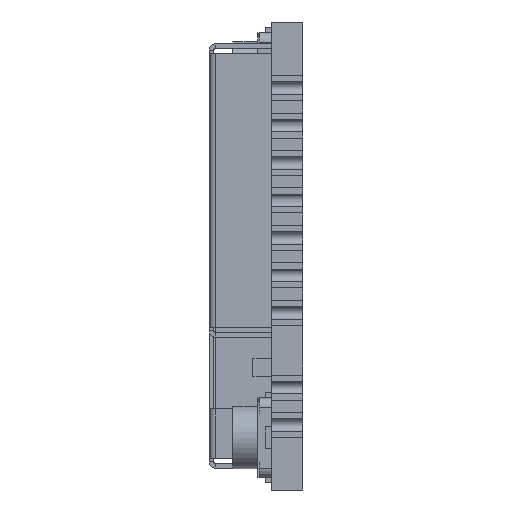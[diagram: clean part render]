
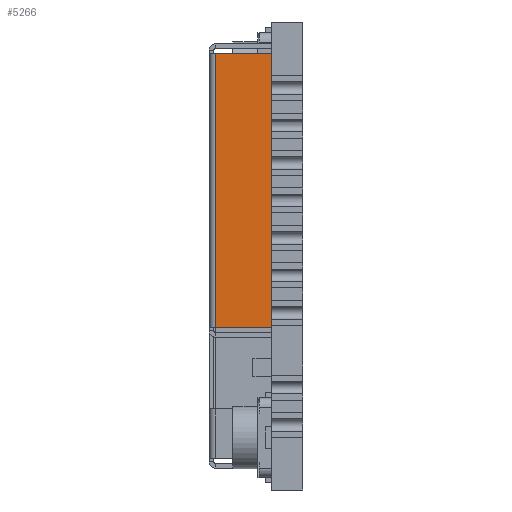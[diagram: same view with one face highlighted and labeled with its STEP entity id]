
A CAD part, left-side view. The second image highlights one B-rep face of the part: STEP entity #5266.
In plain terms, the highlighted planar face has unit normal (-1, 0, 0).
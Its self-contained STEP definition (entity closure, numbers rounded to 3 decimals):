
#670 = DIRECTION ( 'NONE',  ( 0., -1., 0. ) ) ;
#911 = CARTESIAN_POINT ( 'NONE',  ( -10.65, 2.8, 6.5 ) ) ;
#924 = DIRECTION ( 'NONE',  ( 0., 0., 1. ) ) ;
#940 = VERTEX_POINT ( 'NONE', #8190 ) ;
#1208 = AXIS2_PLACEMENT_3D ( 'NONE', #4457, #11920, #19423 ) ;
#1866 = VECTOR ( 'NONE', #670, 1000. ) ;
#2331 = CARTESIAN_POINT ( 'NONE',  ( -10.65, 2.8, -2.3 ) ) ;
#2624 = CARTESIAN_POINT ( 'NONE',  ( -10.65, 1., -2.3 ) ) ;
#3343 = VERTEX_POINT ( 'NONE', #13333 ) ;
#4358 = ORIENTED_EDGE ( 'NONE', *, *, #22323, .T. ) ;
#4457 = CARTESIAN_POINT ( 'NONE',  ( -10.65, 3., -2.3 ) ) ;
#5266 = ADVANCED_FACE ( 'NONE', ( #13758 ), #21297, .F. ) ;
#5884 = VECTOR ( 'NONE', #11356, 1000. ) ;
#6196 = LINE ( 'NONE', #17252, #1866 ) ;
#8190 = CARTESIAN_POINT ( 'NONE',  ( -10.65, 2.8, -2.3 ) ) ;
#9079 = EDGE_CURVE ( 'NONE', #14337, #940, #22973, .T. ) ;
#10237 = LINE ( 'NONE', #2624, #20279 ) ;
#11036 = ORIENTED_EDGE ( 'NONE', *, *, #18513, .F. ) ;
#11356 = DIRECTION ( 'NONE',  ( 0., -1., 0. ) ) ;
#11920 = DIRECTION ( 'NONE',  ( 1., 0., 0. ) ) ;
#13333 = CARTESIAN_POINT ( 'NONE',  ( -10.65, 1., -2.3 ) ) ;
#13758 = FACE_OUTER_BOUND ( 'NONE', #14532, .T. ) ;
#14337 = VERTEX_POINT ( 'NONE', #911 ) ;
#14532 = EDGE_LOOP ( 'NONE', ( #11036, #17893, #4358, #22180 ) ) ;
#15408 = LINE ( 'NONE', #17030, #5884 ) ;
#15527 = VERTEX_POINT ( 'NONE', #19240 ) ;
#17030 = CARTESIAN_POINT ( 'NONE',  ( -10.65, 3., -2.3 ) ) ;
#17151 = EDGE_CURVE ( 'NONE', #3343, #15527, #10237, .T. ) ;
#17252 = CARTESIAN_POINT ( 'NONE',  ( -10.65, 3., 6.5 ) ) ;
#17893 = ORIENTED_EDGE ( 'NONE', *, *, #9079, .T. ) ;
#18495 = VECTOR ( 'NONE', #19387, 1000. ) ;
#18513 = EDGE_CURVE ( 'NONE', #14337, #15527, #6196, .T. ) ;
#19240 = CARTESIAN_POINT ( 'NONE',  ( -10.65, 1., 6.5 ) ) ;
#19387 = DIRECTION ( 'NONE',  ( 0., 0., -1. ) ) ;
#19423 = DIRECTION ( 'NONE',  ( 0., 0., -1. ) ) ;
#20279 = VECTOR ( 'NONE', #924, 1000. ) ;
#21297 = PLANE ( 'NONE',  #1208 ) ;
#22180 = ORIENTED_EDGE ( 'NONE', *, *, #17151, .T. ) ;
#22323 = EDGE_CURVE ( 'NONE', #940, #3343, #15408, .T. ) ;
#22973 = LINE ( 'NONE', #2331, #18495 ) ;
